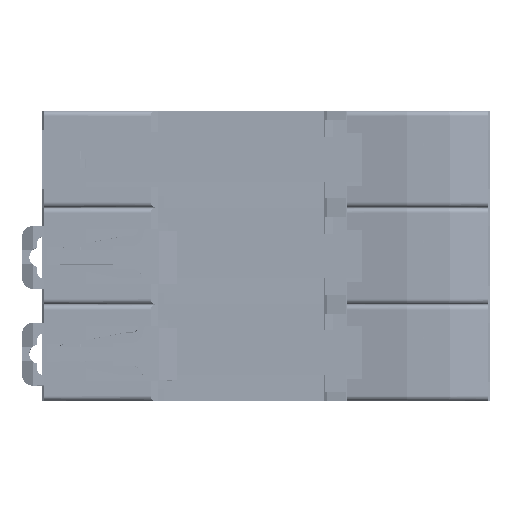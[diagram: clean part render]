
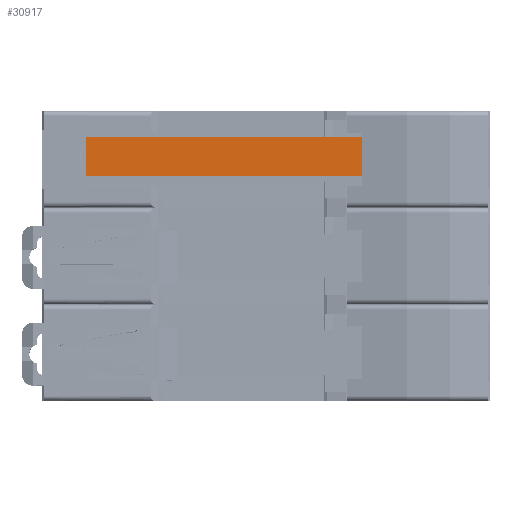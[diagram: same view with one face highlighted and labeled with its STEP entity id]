
A CAD part, front view. The second image highlights one B-rep face of the part: STEP entity #30917.
In plain terms, the highlighted planar face has unit normal (0, -1, 0).
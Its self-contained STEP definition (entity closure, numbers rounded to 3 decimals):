
#1764 = DIRECTION ( 'NONE',  ( 1., 0., 0. ) ) ;
#2051 = VERTEX_POINT ( 'NONE', #52526 ) ;
#2141 = CARTESIAN_POINT ( 'NONE',  ( -36.661, 3.207, 1.315 ) ) ;
#3034 = CARTESIAN_POINT ( 'NONE',  ( -135.966, 3.207, -20.282 ) ) ;
#4457 = EDGE_CURVE ( 'NONE', #33712, #14140, #104952, .T. ) ;
#8549 = CARTESIAN_POINT ( 'NONE',  ( -3.938, 3.207, 8.4 ) ) ;
#8838 = VECTOR ( 'NONE', #35881, 1000. ) ;
#14140 = VERTEX_POINT ( 'NONE', #119003 ) ;
#14494 = VERTEX_POINT ( 'NONE', #50588 ) ;
#24524 = EDGE_CURVE ( 'NONE', #2051, #14140, #47636, .T. ) ;
#26162 = LINE ( 'NONE', #8549, #8838 ) ;
#26500 = VERTEX_POINT ( 'NONE', #70425 ) ;
#27917 = CARTESIAN_POINT ( 'NONE',  ( -54.111, 3.207, 8.4 ) ) ;
#30917 = ADVANCED_FACE ( 'NONE', ( #99758 ), #86861, .F. ) ;
#31147 = DIRECTION ( 'NONE',  ( 0., 1., 0. ) ) ;
#33113 = EDGE_CURVE ( 'NONE', #14494, #26500, #26162, .T. ) ;
#33712 = VERTEX_POINT ( 'NONE', #83045 ) ;
#35881 = DIRECTION ( 'NONE',  ( 0.009, 0., -1. ) ) ;
#43369 = CARTESIAN_POINT ( 'NONE',  ( -36.661, 3.207, 1.315 ) ) ;
#47636 = LINE ( 'NONE', #107940, #67821 ) ;
#49948 = LINE ( 'NONE', #109361, #94585 ) ;
#50588 = CARTESIAN_POINT ( 'NONE',  ( -3.938, 3.207, 8.4 ) ) ;
#52526 = CARTESIAN_POINT ( 'NONE',  ( -47.196, 3.207, 1.315 ) ) ;
#52900 = DIRECTION ( 'NONE',  ( -1., 0., 0. ) ) ;
#53107 = VECTOR ( 'NONE', #89929, 1000. ) ;
#54715 = EDGE_LOOP ( 'NONE', ( #115964, #107395, #79914, #68603, #112183, #64937 ) ) ;
#57642 = DIRECTION ( 'NONE',  ( 0., 0., 1. ) ) ;
#58408 = DIRECTION ( 'NONE',  ( 0., 0., 1. ) ) ;
#59075 = VERTEX_POINT ( 'NONE', #27917 ) ;
#61850 = VECTOR ( 'NONE', #1764, 1000. ) ;
#64937 = ORIENTED_EDGE ( 'NONE', *, *, #109379, .T. ) ;
#65572 = VECTOR ( 'NONE', #57642, 1000. ) ;
#67821 = VECTOR ( 'NONE', #52900, 1000. ) ;
#68603 = ORIENTED_EDGE ( 'NONE', *, *, #4457, .T. ) ;
#70425 = CARTESIAN_POINT ( 'NONE',  ( -3.876, 3.207, 1.315 ) ) ;
#74391 = DIRECTION ( 'NONE',  ( 1., 0., 0. ) ) ;
#79914 = ORIENTED_EDGE ( 'NONE', *, *, #87092, .F. ) ;
#83045 = CARTESIAN_POINT ( 'NONE',  ( -54.111, 3.207, 1.315 ) ) ;
#86861 = PLANE ( 'NONE',  #92178 ) ;
#87092 = EDGE_CURVE ( 'NONE', #33712, #59075, #102911, .T. ) ;
#89929 = DIRECTION ( 'NONE',  ( 1., 0., 0. ) ) ;
#92178 = AXIS2_PLACEMENT_3D ( 'NONE', #3034, #31147, #58408 ) ;
#94585 = VECTOR ( 'NONE', #74391, 1000. ) ;
#97630 = LINE ( 'NONE', #43369, #53107 ) ;
#99758 = FACE_OUTER_BOUND ( 'NONE', #54715, .T. ) ;
#102911 = LINE ( 'NONE', #112685, #65572 ) ;
#103395 = EDGE_CURVE ( 'NONE', #59075, #14494, #49948, .T. ) ;
#104952 = LINE ( 'NONE', #2141, #61850 ) ;
#107395 = ORIENTED_EDGE ( 'NONE', *, *, #103395, .F. ) ;
#107940 = CARTESIAN_POINT ( 'NONE',  ( -135.966, 3.207, 1.315 ) ) ;
#109361 = CARTESIAN_POINT ( 'NONE',  ( -135.966, 3.207, 8.4 ) ) ;
#109379 = EDGE_CURVE ( 'NONE', #2051, #26500, #97630, .T. ) ;
#112183 = ORIENTED_EDGE ( 'NONE', *, *, #24524, .F. ) ;
#112685 = CARTESIAN_POINT ( 'NONE',  ( -54.111, 3.207, -20.282 ) ) ;
#115964 = ORIENTED_EDGE ( 'NONE', *, *, #33113, .F. ) ;
#119003 = CARTESIAN_POINT ( 'NONE',  ( -51.258, 3.207, 1.315 ) ) ;
